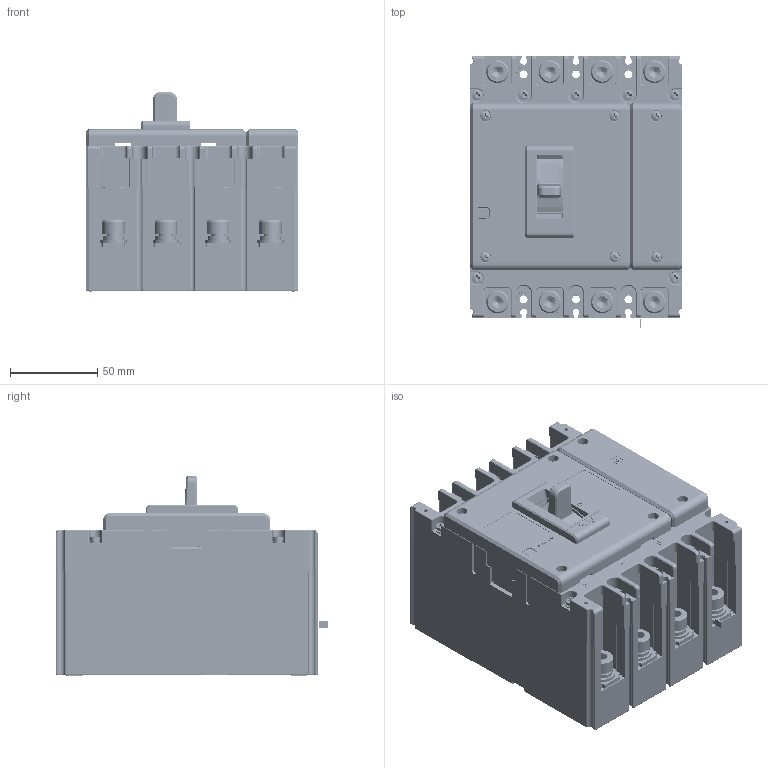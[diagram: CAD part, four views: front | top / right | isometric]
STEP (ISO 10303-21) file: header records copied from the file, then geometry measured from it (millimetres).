
FILE_DESCRIPTION((''),'2;1');
FILE_NAME('2253030800_ASM_ASM','2021-06-10T',('guobiao.he'),(''),'PRO/ENGINEER BY PARAMETRIC TECHNOLOGY CORPORATION, 2015440','PRO/ENGINEER BY PARAMETRIC TECHNOLOGY CORPORATION, 2015440','');
FILE_SCHEMA(('CONFIG_CONTROL_DESIGN'));
Products named in the file (59): JZ8024045000_178; GB_T809_M3_5X12_4; 5024045000_ASM_80_ASM; 70801007_GB_T6170_M8_2; 8585065400_6; 5551073200_ASM_6_ASM; 8775008900_13; MANIFOLD_SOLID_BREP_104382; 8505030200_13_ASM; 5551102700_ASM_15_ASM; 8964011500_6; 5551102800_ASM_13_ASM; 5551102900_ASM_17_ASM; 7010100312J_GB_T823_M3X20_7; 7090300201_GB_T93_3_10; GB_T97_4_3_3; 5850006000_ASM_2_ASM; GB_T823-M3_5X10_7; 8950019500_5; 5850004500_ASM_1_ASM; GB_T818-M3X8_3; 8950022000_1; 5850005300_ASM_2_ASM; 8585065500_6; 5420038100_ASM_5_ASM; 5420038200_ASM_3_ASM; 5615027400_ASM_6_ASM; 7010100503_GB_T9074_4_M4X8_3; GB_T823-M3_5X30_7; 5850007200_ASM_4_ASM; 8231017100_3; 8585065200_4; MANIFOLD_SOLID_BREP_236986; MANIFOLD_SOLID_BREP_237137; 85050247P03_11_ASM; 5510012800_ASM_1_ASM; 5295009200_ASM_39_ASM; 8742105400_13; 8742105300_1; 8156031900_1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
Assembly tree (132 placements, depth 8):
  2253030800_ASM_ASM
    2253030800_ASM_29_ASM
      5295009200_ASM_39_ASM
        5024045000_ASM_80_ASM
          JZ8024045000_178
          GB_T809_M3_5X12_4  x7
        70801007_GB_T6170_M8_2  x8
        5551102900_ASM_17_ASM  x4
          5551102800_ASM_13_ASM
            5551102700_ASM_15_ASM
              8585065400_6
              5551073200_ASM_6_ASM
              8775008900_13
              8505030200_13_ASM  x2
                MANIFOLD_SOLID_BREP_104382
            8964011500_6  x2
        5850006000_ASM_2_ASM  x4
          7010100312J_GB_T823_M3X20_7
          7090300201_GB_T93_3_10
          GB_T97_4_3_3
        5850004500_ASM_1_ASM  x8
          GB_T823-M3_5X10_7
          7090300201_GB_T93_3_10
          8950019500_5
        5850005300_ASM_2_ASM  x3
          GB_T818-M3X8_3
          7090300201_GB_T93_3_10
          8950022000_1
        5615027400_ASM_6_ASM  x3
          5420038200_ASM_3_ASM
            5420038100_ASM_5_ASM
              8585065500_6
        7010100503_GB_T9074_4_M4X8_3  x3
        5850007200_ASM_4_ASM  x4
          GB_T823-M3_5X30_7
          7090300201_GB_T93_3_10
          8950019500_5
        8231017100_3
        5510012800_ASM_1_ASM
          8585065200_4  x2
          85050247P03_11_ASM
            MANIFOLD_SOLID_BREP_236986
            MANIFOLD_SOLID_BREP_237137
      8742105400_13  x4
      8742105300_1  x4
      8156031900_1  x3
      5253029000_ASM_21_ASM
        8253076900_21
      8742123300_16  x3
      8750031500_1  x4
      5315052200_ASM_18_ASM
        5315051100_ASM_13_ASM
          8315096200_106
          8282073000_AF0_2
          8253076800_16
        8315096300_52
        8315096400_57
        7020100411_GB13806_2_ST2_9X8_A_  x6
      5850007200_ASM_4_ASM  x7
        GB_T823-M3_5X30_7
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Bounding box: 122 x 156 x 114.63 mm (x, y, z)
Volume: 585866.2 mm3; surface area: 448901 mm2
Topology: 184 solids, 184 shells, 10674 faces, 28399 edges, 18165 vertices
Faces by surface type: plane 6004, cylinder 3197, cone 410, torus 367, extrusion 264, sphere 258, bspline 174
Entity records: 271758 total; most frequent: CARTESIAN_POINT 64006, ORIENTED_EDGE 43840, DIRECTION 42456, EDGE_CURVE 21920, VECTOR 14976, LINE 14712, VERTEX_POINT 14140, AXIS2_PLACEMENT_3D 13740
